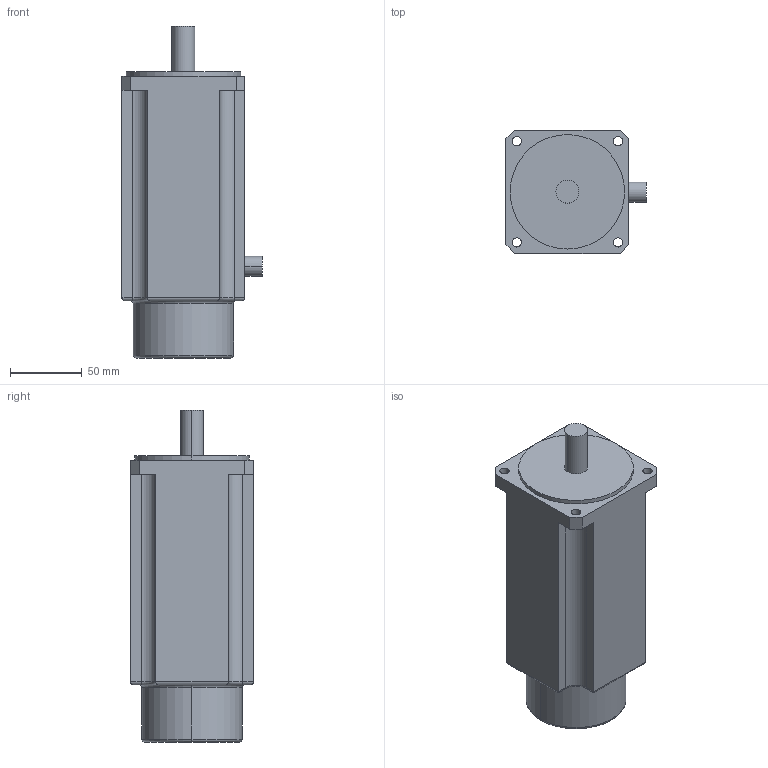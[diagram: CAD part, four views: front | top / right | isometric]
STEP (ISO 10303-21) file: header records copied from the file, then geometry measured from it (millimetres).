
FILE_DESCRIPTION (( 'STEP AP203' ), '1' );
FILE_NAME ('0,75frenliServoAdtech.STEP', '2013-07-24T11:57:32', ( 'Trio Evren' ), ( '' ), 'SwSTEP 2.0', 'SolidWorks 2013', '' );
FILE_SCHEMA (( 'CONFIG_CONTROL_DESIGN' ));
Length unit declared in the file: millimetre
Products named in the file (1): 0,75frenliServoAdtech
Bounding box: 98 x 86 x 232 mm (x, y, z)
Volume: 1165682.3 mm3; surface area: 77562 mm2
Topology: 1 solids, 1 shells, 66 faces, 160 edges, 100 vertices
Faces by surface type: cylinder 32, plane 26, torus 8
Entity records: 2017 total; most frequent: CARTESIAN_POINT 351, DIRECTION 346, ORIENTED_EDGE 320, EDGE_CURVE 160, AXIS2_PLACEMENT_3D 127, VERTEX_POINT 100, VECTOR 92, LINE 92
